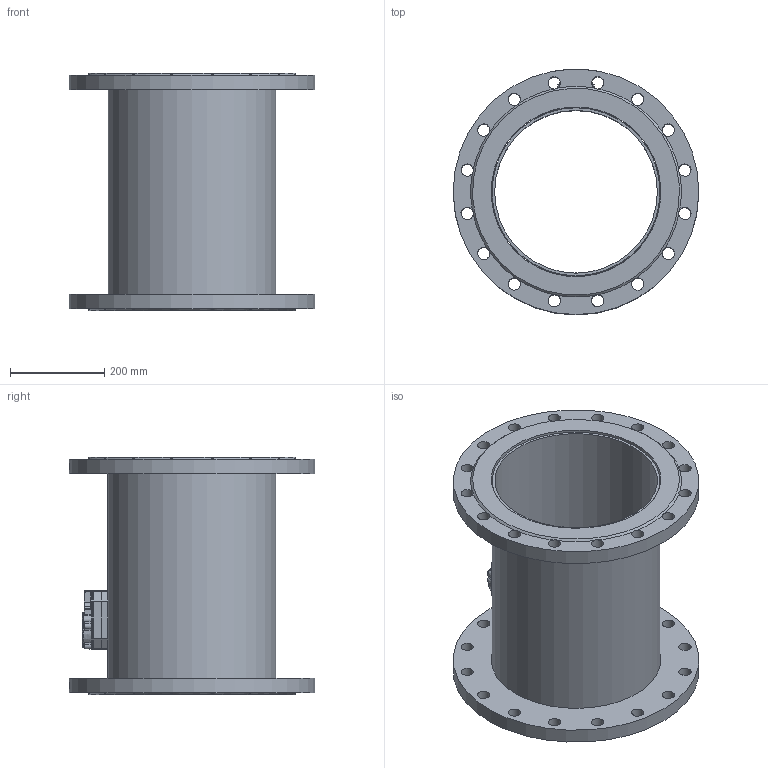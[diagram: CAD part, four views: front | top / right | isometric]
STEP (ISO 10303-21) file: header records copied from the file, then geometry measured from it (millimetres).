
FILE_DESCRIPTION( ( 'Unknown' ), '1' );
FILE_NAME( 'L:/Produit/Debitm/440_DN 350-500/3_Dev/Meca_pce/DN 350/Vente/fichiers STEP/Assemblage DN350_pour vente.stp', 'Unknown', ( 'Unknown' ), ( 'Unknown' ), 'PSStep 17.0.49', 'Unknown', ' ' );
FILE_SCHEMA( ( 'AUTOMOTIVE_DESIGN { 1 0 10303 214 1 1 1 1 }' ) );
Length unit declared in the file: millimetre
Products named in the file (15): 440_tête_rempli_avec joints; 0440P012_rempli; 0440P060_rempli; 0440P054_rempli; 0440P011_rempli; 0440P052_rempli; Assem1; 0440P204_after welding_rempli; 0440P263; 0440P265
Assembly tree (15 placements, depth 3):
  Assem1
    0440P204_after welding_rempli
    0440P263
    0440P265  x2
    440_tête_rempli_avec joints
      0440P012_rempli
      0440P060_rempli
      0440P060_rempli
      0440P060_rempli
      0440P060_rempli
      0440P060_rempli
      0440P060_rempli
      0440P054_rempli
      0440P011_rempli
      0440P052_rempli
Bounding box: 519.94 x 519.87 x 502 mm (x, y, z)
Volume: 9872668.6 mm3; surface area: 1902744.4 mm2
Topology: 14 solids, 14 shells, 335 faces, 942 edges, 596 vertices
Faces by surface type: cylinder 134, plane 102, cone 55, torus 29, bspline 15
Full cylindrical faces by diameter (mm): 2 x2, 2.2 x1, 2.459 x1, 2.5 x1, 3.242 x2, 4.1 x1, 5.03 x1, 6.2 x6, 6.917 x1, 8.376 x4, 10 x1, 10.2 x2, 16 x2, 20 x2, 26 x32, 348 x1, 355.6 x1, 359.5 x2
Entity records: 17999 total; most frequent: CARTESIAN_POINT 9152, ORIENTED_EDGE 1422, DIRECTION 988, EDGE_CURVE 711, VERTEX_POINT 486, B_SPLINE_CURVE_WITH_KNOTS 460, AXIS2_PLACEMENT_3D 435, EDGE_LOOP 414
